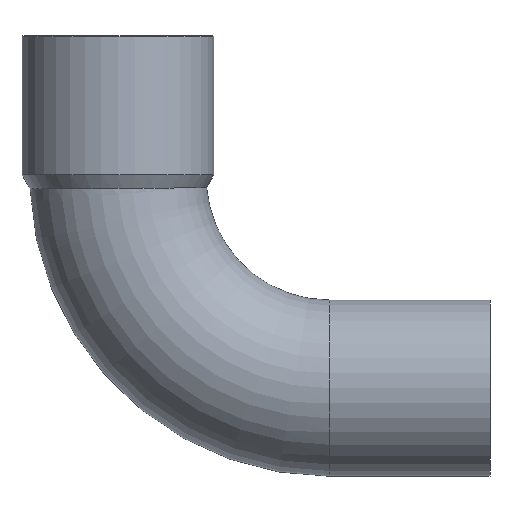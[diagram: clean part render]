
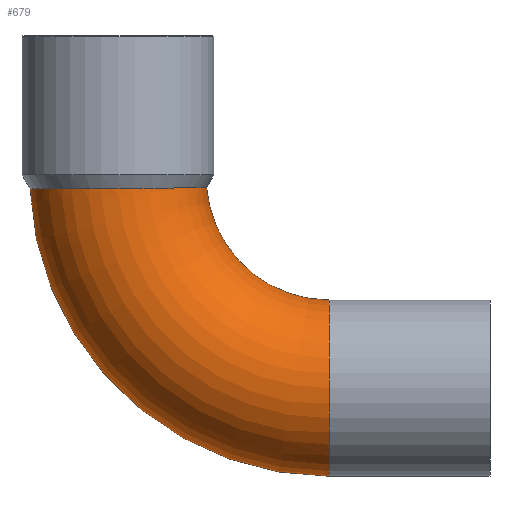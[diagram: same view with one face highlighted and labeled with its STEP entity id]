
A CAD part, front view. The second image highlights one B-rep face of the part: STEP entity #679.
In plain terms, the highlighted toroidal (fillet/blend) face has major radius 21.6 mm and minor radius 9 mm.
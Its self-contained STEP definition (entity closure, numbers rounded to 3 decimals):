
#49=CARTESIAN_POINT('',(-8.54,0.,-1.244));
#50=VERTEX_POINT('',#49);
#51=CARTESIAN_POINT('',(22.035,0.,-30.6));
#52=VERTEX_POINT('',#51);
#53=CARTESIAN_POINT('',(22.035,0.,0.0));
#54=DIRECTION('',(0.0,-1.0,0.0));
#55=DIRECTION('',(0.0,0.0,-1.0));
#56=AXIS2_PLACEMENT_3D('',#53,#54,#55);
#57=CIRCLE('',#56,30.6);
#58=EDGE_CURVE('',#50,#52,#57,.T.);
#60=CARTESIAN_POINT('',(9.484,0.,-1.114));
#61=VERTEX_POINT('',#60);
#85=CARTESIAN_POINT('',(22.035,0.,-12.6));
#86=VERTEX_POINT('',#85);
#87=CARTESIAN_POINT('',(22.035,0.,0.0));
#88=DIRECTION('',(0.0,1.0,0.0));
#89=DIRECTION('',(0.0,0.0,-1.0));
#90=AXIS2_PLACEMENT_3D('',#87,#88,#89);
#91=CIRCLE('',#90,12.6);
#92=EDGE_CURVE('',#86,#61,#91,.T.);
#210=CARTESIAN_POINT('',(9.484,0.,-1.114));
#211=CARTESIAN_POINT('',(9.484,-0.077,-1.114));
#212=CARTESIAN_POINT('',(9.483,-0.155,-1.114));
#213=CARTESIAN_POINT('',(9.451,-1.402,-1.115));
#214=CARTESIAN_POINT('',(9.192,-2.555,-1.119));
#215=CARTESIAN_POINT('',(8.246,-4.7,-1.131));
#216=CARTESIAN_POINT('',(7.566,-5.671,-1.139));
#217=CARTESIAN_POINT('',(5.872,-7.298,-1.157));
#218=CARTESIAN_POINT('',(4.874,-7.939,-1.167));
#219=CARTESIAN_POINT('',(2.688,-8.801,-1.185));
#220=CARTESIAN_POINT('',(1.521,-9.015,-1.193));
#221=CARTESIAN_POINT('',(-0.827,-8.983,-1.208));
#222=CARTESIAN_POINT('',(-1.986,-8.739,-1.215));
#223=CARTESIAN_POINT('',(-4.144,-7.819,-1.226));
#224=CARTESIAN_POINT('',(-5.123,-7.153,-1.23));
#225=CARTESIAN_POINT('',(-6.769,-5.485,-1.237));
#226=CARTESIAN_POINT('',(-7.422,-4.498,-1.24));
#227=CARTESIAN_POINT('',(-8.311,-2.331,-1.243));
#228=CARTESIAN_POINT('',(-8.54,-1.171,-1.244));
#229=CARTESIAN_POINT('',(-8.54,0.,-1.244));
#230=B_SPLINE_CURVE_WITH_KNOTS('',3,(#210,#211,#212,#213,#214,#215,#216,#217,#218,#219,#220,#221,#222,#223,#224,#225,#226,#227,#228,#229),.UNSPECIFIED.,.F.,.U.,(4,2,2,2,2,2,2,2,2,4),(-2.838,-2.815,-2.464,-2.112,-1.759,-1.407,-1.055,-0.703,-0.351,0.0),.UNSPECIFIED.);
#231=EDGE_CURVE('',#61,#50,#230,.T.);
#535=CARTESIAN_POINT('',(22.035,0.,-21.6));
#536=DIRECTION('',(-1.0,0.0,0.0));
#537=DIRECTION('',(0.0,0.0,-1.0));
#538=AXIS2_PLACEMENT_3D('',#535,#536,#537);
#539=CIRCLE('',#538,9.);
#540=EDGE_CURVE('',#52,#86,#539,.T.);
#668=CARTESIAN_POINT('',(22.035,0.,0.0));
#669=DIRECTION('',(0.0,-1.0,0.0));
#670=DIRECTION('',(0.0,0.0,-1.0));
#671=AXIS2_PLACEMENT_3D('',#668,#669,#670);
#672=TOROIDAL_SURFACE('',#671,21.6,9.);
#673=ORIENTED_EDGE('',*,*,#58,.T.);
#674=ORIENTED_EDGE('',*,*,#540,.T.);
#675=ORIENTED_EDGE('',*,*,#92,.T.);
#676=ORIENTED_EDGE('',*,*,#231,.T.);
#677=EDGE_LOOP('',(#673,#674,#675,#676));
#678=FACE_OUTER_BOUND('',#677,.T.);
#679=ADVANCED_FACE('',(#678),#672,.T.);
